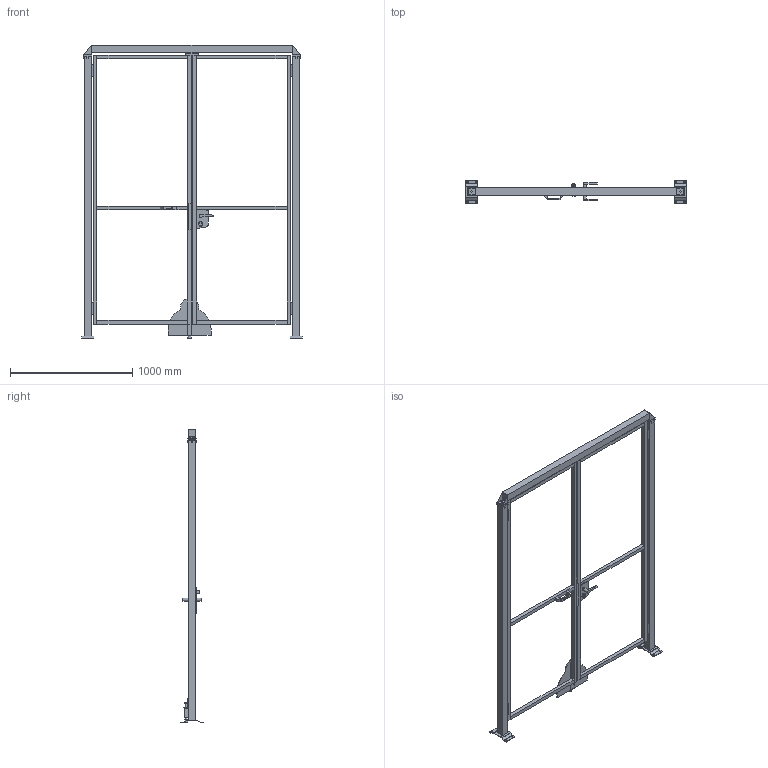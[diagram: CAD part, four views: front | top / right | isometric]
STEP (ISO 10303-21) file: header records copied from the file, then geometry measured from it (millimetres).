
FILE_DESCRIPTION(/* description */ (''),/* implementation_level */ '2;1');
FILE_NAME(/* name */ 'C:\SafeGuarding\ELABORATI\VZOR§GAMMA_2025-02-03-11-22-06.stp',/* time_stamp */ '2025-02-03T11:22:09+01:00',/* author */ ('admin'),/* organization */ (''),/* preprocessor_version */ 'ST-DEVELOPER v18.1',/* originating_system */ 'AutoCAD Mechanical',/* authorisation */ '');
FILE_SCHEMA (('AUTOMOTIVE_DESIGN { 1 0 10303 214 3 1 1 }'));
Length unit declared in the file: millimetre
Products named in the file (5): Product; *U4; DATI_PORTA; P_VFMA.ME60SDU.2320; R_VFPA.REPE30.08002200
Assembly tree (6 placements, depth 2):
  Product
    R_VFPA.REPE30.08002200  x2
    P_VFMA.ME60SDU.2320  x2
    *U4
    DATI_PORTA
Bounding box: 1805 x 192 x 2400.5 mm (x, y, z)
Volume: 36208696.5 mm3; surface area: 3765886.9 mm2
Topology: 38 solids, 49 shells, 429 faces, 1323 edges, 1262 vertices
Faces by surface type: plane 353, cylinder 71, bspline 4, cone 1
Full cylindrical faces by diameter (mm): 11 x25, 14 x2, 24 x1, 25 x2, 25.398 x2
Entity records: 13202 total; most frequent: CARTESIAN_POINT 3788, DIRECTION 1845, ORIENTED_EDGE 1688, EDGE_CURVE 893, LINE 751, VECTOR 751, VERTEX_POINT 632, AXIS2_PLACEMENT_3D 547
